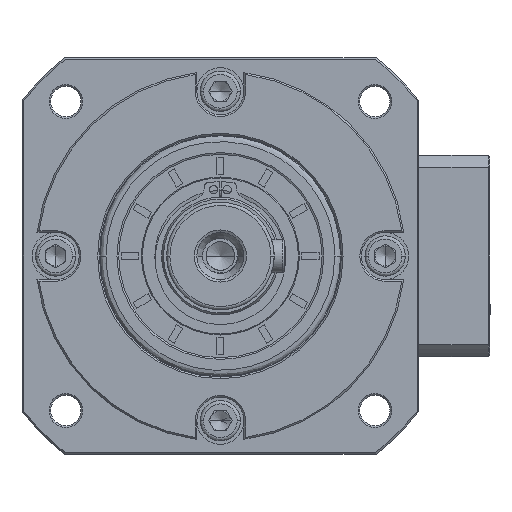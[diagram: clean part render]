
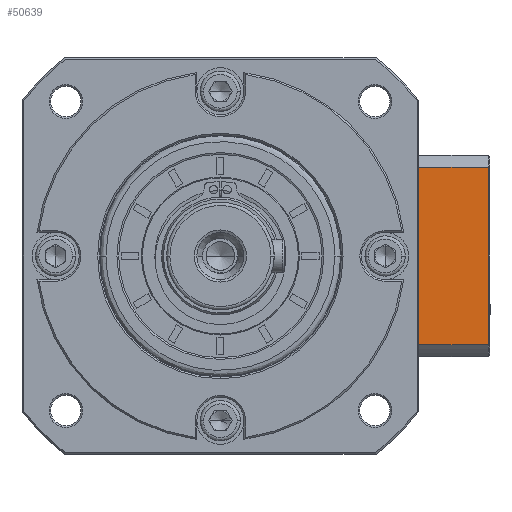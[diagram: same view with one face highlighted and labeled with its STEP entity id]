
A CAD part, left-side view. The second image highlights one B-rep face of the part: STEP entity #50639.
In plain terms, the highlighted planar face has unit normal (-1, 0, 0).
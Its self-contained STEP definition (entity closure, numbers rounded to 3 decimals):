
#2178 = CARTESIAN_POINT ( 'NONE',  ( -59.255, -102.281, -66.568 ) ) ;
#3734 = CARTESIAN_POINT ( 'NONE',  ( -59.255, -107.281, -111.053 ) ) ;
#4698 = VECTOR ( 'NONE', #48484, 1000. ) ;
#5053 = CARTESIAN_POINT ( 'NONE',  ( -59.255, -102.281, -102.624 ) ) ;
#7810 = CARTESIAN_POINT ( 'NONE',  ( -59.255, -129.481, -58.138 ) ) ;
#8263 = EDGE_CURVE ( 'NONE', #147619, #156707, #30666, .T. ) ;
#19922 = CARTESIAN_POINT ( 'NONE',  ( -59.255, -107.281, -58.138 ) ) ;
#22910 = EDGE_CURVE ( 'NONE', #60134, #89903, #78365, .T. ) ;
#24319 = ORIENTED_EDGE ( 'NONE', *, *, #8263, .T. ) ;
#28223 = FACE_OUTER_BOUND ( 'NONE', #169434, .T. ) ;
#30666 = LINE ( 'NONE', #63118, #104169 ) ;
#32728 = CARTESIAN_POINT ( 'NONE',  ( -59.255, -103.03, -65.113 ) ) ;
#38516 = DIRECTION ( 'NONE',  ( 1., 0., 0. ) ) ;
#44272 = DIRECTION ( 'NONE',  ( 0., 1., 0. ) ) ;
#48484 = DIRECTION ( 'NONE',  ( 0., 1., 0. ) ) ;
#50639 = ADVANCED_FACE ( 'NONE', ( #28223 ), #134641, .F. ) ;
#55480 = LINE ( 'NONE', #126978, #161370 ) ;
#56876 = CARTESIAN_POINT ( 'NONE',  ( -59.255, -102.281, -102.624 ) ) ;
#57259 = B_SPLINE_CURVE_WITH_KNOTS ( 'NONE', 3,
 ( #129447, #32728, #157188, #74473, #171122, #88359 ),
 .UNSPECIFIED., .F., .F.,
 ( 4, 2, 4 ),
 ( 0., 0.005, 0.01 ),
 .UNSPECIFIED. ) ;
#58785 = DIRECTION ( 'NONE',  ( 0., -1., 0. ) ) ;
#59059 = ORIENTED_EDGE ( 'NONE', *, *, #87681, .F. ) ;
#60134 = VERTEX_POINT ( 'NONE', #56876 ) ;
#60201 = CARTESIAN_POINT ( 'NONE',  ( -59.255, -107.281, -111.053 ) ) ;
#63118 = CARTESIAN_POINT ( 'NONE',  ( -59.255, -129.481, -117.096 ) ) ;
#63976 = CARTESIAN_POINT ( 'NONE',  ( -59.255, -87.781, -66.568 ) ) ;
#66679 = CARTESIAN_POINT ( 'NONE',  ( -59.255, -102.281, -58.138 ) ) ;
#69761 = ORIENTED_EDGE ( 'NONE', *, *, #161010, .F. ) ;
#72893 = CARTESIAN_POINT ( 'NONE',  ( -59.255, -106.379, -109.689 ) ) ;
#74084 = CARTESIAN_POINT ( 'NONE',  ( -59.255, -105.504, -108.309 ) ) ;
#74142 = VERTEX_POINT ( 'NONE', #2178 ) ;
#74473 = CARTESIAN_POINT ( 'NONE',  ( -59.255, -105.504, -60.883 ) ) ;
#78365 = LINE ( 'NONE', #159044, #4698 ) ;
#83370 = ORIENTED_EDGE ( 'NONE', *, *, #173170, .F. ) ;
#85212 = ORIENTED_EDGE ( 'NONE', *, *, #22910, .F. ) ;
#87681 = EDGE_CURVE ( 'NONE', #74142, #121340, #57259, .T. ) ;
#87937 = CARTESIAN_POINT ( 'NONE',  ( -59.255, -103.03, -104.078 ) ) ;
#88359 = CARTESIAN_POINT ( 'NONE',  ( -59.255, -107.281, -58.138 ) ) ;
#89903 = VERTEX_POINT ( 'NONE', #166161 ) ;
#91842 = VECTOR ( 'NONE', #127303, 1000. ) ;
#98808 = LINE ( 'NONE', #168158, #131185 ) ;
#101082 = ORIENTED_EDGE ( 'NONE', *, *, #149103, .F. ) ;
#104169 = VECTOR ( 'NONE', #159714, 1000. ) ;
#108891 = AXIS2_PLACEMENT_3D ( 'NONE', #121294, #38516, #135216 ) ;
#113398 = CARTESIAN_POINT ( 'NONE',  ( -59.255, -87.781, -114.596 ) ) ;
#121294 = CARTESIAN_POINT ( 'NONE',  ( -59.255, -129.981, -114.596 ) ) ;
#121340 = VERTEX_POINT ( 'NONE', #19922 ) ;
#124289 = EDGE_CURVE ( 'NONE', #121340, #156707, #165794, .T. ) ;
#126978 = CARTESIAN_POINT ( 'NONE',  ( -59.255, -129.981, -66.568 ) ) ;
#127303 = DIRECTION ( 'NONE',  ( 0., 0., 1. ) ) ;
#129447 = CARTESIAN_POINT ( 'NONE',  ( -59.255, -102.281, -66.568 ) ) ;
#131185 = VECTOR ( 'NONE', #44272, 1000. ) ;
#134641 = PLANE ( 'NONE',  #108891 ) ;
#135216 = DIRECTION ( 'NONE',  ( 0., 1., 0. ) ) ;
#147619 = VERTEX_POINT ( 'NONE', #177266 ) ;
#149103 = EDGE_CURVE ( 'NONE', #160719, #74142, #55480, .T. ) ;
#150575 = ORIENTED_EDGE ( 'NONE', *, *, #124289, .F. ) ;
#151239 = VERTEX_POINT ( 'NONE', #3734 ) ;
#156707 = VERTEX_POINT ( 'NONE', #7810 ) ;
#157188 = CARTESIAN_POINT ( 'NONE',  ( -59.255, -103.83, -63.689 ) ) ;
#159044 = CARTESIAN_POINT ( 'NONE',  ( -59.255, -129.981, -102.624 ) ) ;
#159714 = DIRECTION ( 'NONE',  ( 0., 0., 1. ) ) ;
#160719 = VERTEX_POINT ( 'NONE', #63976 ) ;
#161010 = EDGE_CURVE ( 'NONE', #151239, #60134, #174593, .T. ) ;
#161370 = VECTOR ( 'NONE', #58785, 1000. ) ;
#161415 = VECTOR ( 'NONE', #162718, 1000. ) ;
#161944 = ORIENTED_EDGE ( 'NONE', *, *, #162711, .F. ) ;
#162711 = EDGE_CURVE ( 'NONE', #89903, #160719, #165341, .T. ) ;
#162718 = DIRECTION ( 'NONE',  ( 0., -1., 0. ) ) ;
#165341 = LINE ( 'NONE', #113398, #91842 ) ;
#165794 = LINE ( 'NONE', #66679, #161415 ) ;
#166161 = CARTESIAN_POINT ( 'NONE',  ( -59.255, -87.781, -102.624 ) ) ;
#168158 = CARTESIAN_POINT ( 'NONE',  ( -59.255, -129.981, -111.053 ) ) ;
#169434 = EDGE_LOOP ( 'NONE', ( #24319, #150575, #59059, #101082, #161944, #85212, #69761, #83370 ) ) ;
#170734 = CARTESIAN_POINT ( 'NONE',  ( -59.255, -103.83, -105.503 ) ) ;
#171122 = CARTESIAN_POINT ( 'NONE',  ( -59.255, -106.379, -59.502 ) ) ;
#173170 = EDGE_CURVE ( 'NONE', #147619, #151239, #98808, .T. ) ;
#174593 = B_SPLINE_CURVE_WITH_KNOTS ( 'NONE', 3,
 ( #60201, #72893, #74084, #170734, #87937, #5053 ),
 .UNSPECIFIED., .F., .F.,
 ( 4, 2, 4 ),
 ( 0., 0.005, 0.01 ),
 .UNSPECIFIED. ) ;
#177266 = CARTESIAN_POINT ( 'NONE',  ( -59.255, -129.481, -111.053 ) ) ;
